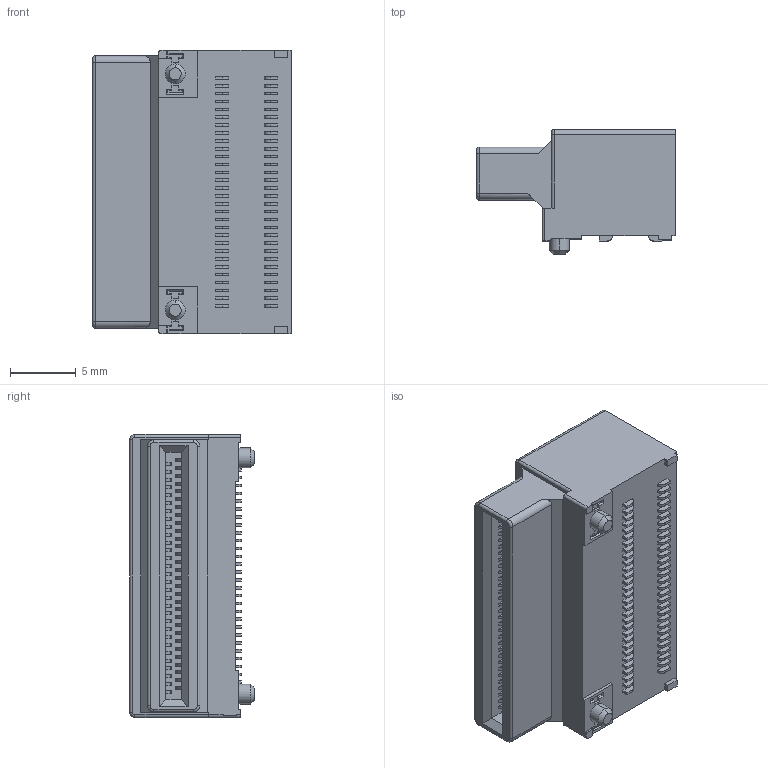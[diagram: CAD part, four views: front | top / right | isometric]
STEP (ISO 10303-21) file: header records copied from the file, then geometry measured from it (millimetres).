
FILE_DESCRIPTION((''),'2;1');
FILE_NAME('OSFP112G_CONN_PEP060-7520-000-1','2026-06-18T18:23:59',('39002408'),(''),'CREO PARAMETRIC BY PTC INC, 2019471','CREO PARAMETRIC BY PTC INC, 2019471','');
FILE_SCHEMA(('CONFIG_CONTROL_DESIGN'));
Length unit declared in the file: millimetre
Products named in the file (1): OSFP112G_CONN_PEP060-7520-000-1
Bounding box: 15.16 x 9.5 x 21.58 mm (x, y, z)
Volume: 2068.1 mm3; surface area: 1522.1 mm2
Topology: 1 solids, 1 shells, 1014 faces, 2588 edges, 1716 vertices
Faces by surface type: plane 861, cylinder 143, cone 4, torus 4, bspline 2
Entity records: 30321 total; most frequent: CARTESIAN_POINT 5381, ORIENTED_EDGE 5176, DIRECTION 4898, EDGE_CURVE 2588, VECTOR 2290, LINE 2290, VERTEX_POINT 1716, AXIS2_PLACEMENT_3D 1304
